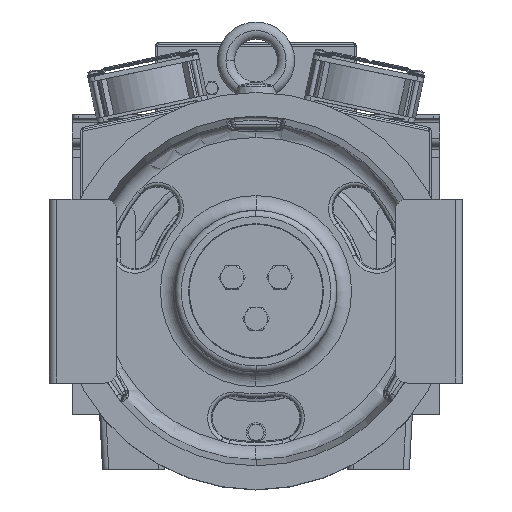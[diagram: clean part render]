
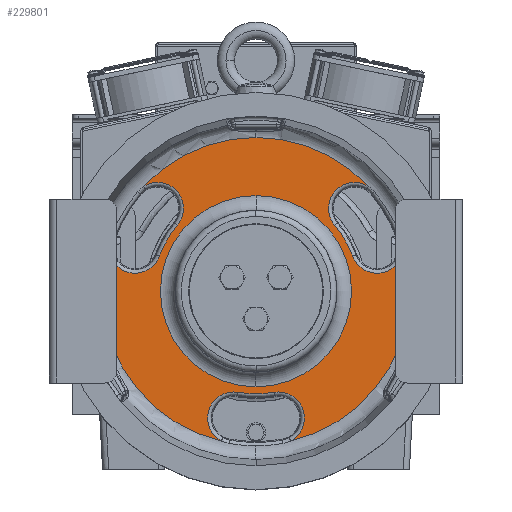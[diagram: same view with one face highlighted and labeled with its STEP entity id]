
A CAD part, top view. The second image highlights one B-rep face of the part: STEP entity #229801.
In plain terms, the highlighted planar face has unit normal (0, 0, 1) as drawn and (0, 0, -1) by its records, which use the part's own axes.
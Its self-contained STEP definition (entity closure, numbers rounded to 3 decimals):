
#224894=CARTESIAN_POINT('',(-18.233,-103.405,-10.));
#224895=DIRECTION('',(0.,0.,-1.));
#224896=DIRECTION('',(-0.469,-0.883,0.));
#224897=AXIS2_PLACEMENT_3D('',#224894,#224895,#224896);
#224899=CARTESIAN_POINT('',(0.,0.,-10.));
#224900=DIRECTION('',(0.,0.,1.));
#224901=DIRECTION('',(-0.174,-0.985,0.));
#224902=AXIS2_PLACEMENT_3D('',#224899,#224900,#224901);
#224904=CARTESIAN_POINT('',(18.233,-103.405,-10.));
#224905=DIRECTION('',(0.,0.,-1.));
#224906=DIRECTION('',(-0.174,0.985,0.));
#224907=AXIS2_PLACEMENT_3D('',#224904,#224905,#224906);
#224909=CARTESIAN_POINT('',(18.233,-103.405,-10.));
#224910=DIRECTION('',(0.,0.,-1.));
#224911=DIRECTION('',(-0.165,0.986,0.));
#224912=AXIS2_PLACEMENT_3D('',#224909,#224910,#224911);
#224914=CARTESIAN_POINT('',(0.,0.,-10.));
#224915=DIRECTION('',(0.,0.,1.));
#224916=DIRECTION('',(0.225,-0.974,0.));
#224917=AXIS2_PLACEMENT_3D('',#224914,#224915,#224916);
#224919=CARTESIAN_POINT('',(98.668,35.912,-10.));
#224920=DIRECTION('',(0.,0.,-1.));
#224921=DIRECTION('',(0.999,0.036,0.));
#224922=AXIS2_PLACEMENT_3D('',#224919,#224920,#224921);
#224924=CARTESIAN_POINT('',(0.,0.,-10.));
#224925=DIRECTION('',(0.,0.,1.));
#224926=DIRECTION('',(0.94,0.342,0.));
#224927=AXIS2_PLACEMENT_3D('',#224924,#224925,#224926);
#224929=CARTESIAN_POINT('',(80.435,67.493,-10.));
#224930=DIRECTION('',(0.,0.,-1.));
#224931=DIRECTION('',(-0.766,-0.643,0.));
#224932=AXIS2_PLACEMENT_3D('',#224929,#224930,#224931);
#224934=CARTESIAN_POINT('',(80.435,67.493,-10.));
#224935=DIRECTION('',(0.,0.,-1.));
#224936=DIRECTION('',(-0.771,-0.636,0.));
#224937=AXIS2_PLACEMENT_3D('',#224934,#224935,#224936);
#224939=CARTESIAN_POINT('',(0.,0.,-10.));
#224940=DIRECTION('',(0.,0.,1.));
#224941=DIRECTION('',(0.731,0.682,0.));
#224942=AXIS2_PLACEMENT_3D('',#224939,#224940,#224941);
#224944=CARTESIAN_POINT('',(0.,0.,-10.));
#224945=DIRECTION('',(0.,0.,1.));
#224946=DIRECTION('',(0.,1.,0.));
#224947=AXIS2_PLACEMENT_3D('',#224944,#224945,#224946);
#224949=CARTESIAN_POINT('',(-80.435,67.493,-10.));
#224950=DIRECTION('',(0.,0.,-1.));
#224951=DIRECTION('',(-0.531,0.848,0.));
#224952=AXIS2_PLACEMENT_3D('',#224949,#224950,#224951);
#224954=CARTESIAN_POINT('',(0.,0.,-10.));
#224955=DIRECTION('',(0.,0.,1.));
#224956=DIRECTION('',(-0.766,0.643,0.));
#224957=AXIS2_PLACEMENT_3D('',#224954,#224955,#224956);
#224959=CARTESIAN_POINT('',(-98.668,35.912,-10.));
#224960=DIRECTION('',(0.,0.,-1.));
#224961=DIRECTION('',(0.94,-0.342,0.));
#224962=AXIS2_PLACEMENT_3D('',#224959,#224960,#224961);
#224964=CARTESIAN_POINT('',(-98.668,35.912,-10.));
#224965=DIRECTION('',(0.,0.,-1.));
#224966=DIRECTION('',(0.937,-0.35,0.));
#224967=AXIS2_PLACEMENT_3D('',#224964,#224965,#224966);
#224969=CARTESIAN_POINT('',(0.,0.,-10.));
#224970=DIRECTION('',(0.,0.,1.));
#224971=DIRECTION('',(-0.956,0.292,0.));
#224972=AXIS2_PLACEMENT_3D('',#224969,#224970,#224971);
#224974=CARTESIAN_POINT('',(0.,0.,-10.));
#224975=DIRECTION('',(0.,0.,-1.));
#224976=DIRECTION('',(0.,-1.,0.));
#224977=AXIS2_PLACEMENT_3D('',#224974,#224975,#224976);
#224979=CARTESIAN_POINT('',(0.,0.,-10.));
#224980=DIRECTION('',(0.,0.,-1.));
#224981=DIRECTION('',(0.,1.,0.));
#224982=AXIS2_PLACEMENT_3D('',#224979,#224980,#224981);
#228984=CARTESIAN_POINT('',(0.,-77.987,-10.));
#228985=CARTESIAN_POINT('',(0.,77.987,-10.));
#228986=VERTEX_POINT('',#228984);
#228987=VERTEX_POINT('',#228985);
#228988=CARTESIAN_POINT('',(-28.194,-122.178,-10.));
#228989=CARTESIAN_POINT('',(-14.543,-82.475,-10.));
#228990=VERTEX_POINT('',#228988);
#228991=VERTEX_POINT('',#228989);
#228992=CARTESIAN_POINT('',(14.543,-82.475,-10.));
#228993=VERTEX_POINT('',#228992);
#228994=CARTESIAN_POINT('',(14.721,-82.445,-10.));
#228995=CARTESIAN_POINT('',(28.194,-122.178,-10.));
#228996=VERTEX_POINT('',#228994);
#228997=VERTEX_POINT('',#228995);
#228998=CARTESIAN_POINT('',(119.906,36.672,-10.));
#228999=VERTEX_POINT('',#228998);
#229000=CARTESIAN_POINT('',(78.697,28.643,-10.));
#229001=VERTEX_POINT('',#229000);
#229002=CARTESIAN_POINT('',(64.154,53.832,-10.));
#229003=VERTEX_POINT('',#229002);
#229004=CARTESIAN_POINT('',(64.039,53.971,-10.));
#229005=CARTESIAN_POINT('',(91.712,85.506,-10.));
#229006=VERTEX_POINT('',#229004);
#229007=VERTEX_POINT('',#229005);
#229008=CARTESIAN_POINT('',(0.,125.389,-10.));
#229009=VERTEX_POINT('',#229008);
#229010=CARTESIAN_POINT('',(-91.712,85.506,-10.));
#229011=VERTEX_POINT('',#229010);
#229012=CARTESIAN_POINT('',(-64.154,53.832,-10.));
#229013=VERTEX_POINT('',#229012);
#229014=CARTESIAN_POINT('',(-78.697,28.643,-10.));
#229015=VERTEX_POINT('',#229014);
#229016=CARTESIAN_POINT('',(-78.76,28.473,-10.));
#229017=CARTESIAN_POINT('',(-119.906,36.672,-10.));
#229018=VERTEX_POINT('',#229016);
#229019=VERTEX_POINT('',#229017);
#229757=CARTESIAN_POINT('',(0.,0.,-10.));
#229758=DIRECTION('',(0.,0.,1.));
#229759=DIRECTION('',(0.,1.,0.));
#229760=AXIS2_PLACEMENT_3D('',#229757,#229758,#229759);
#229761=PLANE('',#229760);
#229763=ORIENTED_EDGE('',*,*,#229762,.T.);
#229765=ORIENTED_EDGE('',*,*,#229764,.T.);
#229767=ORIENTED_EDGE('',*,*,#229766,.T.);
#229769=ORIENTED_EDGE('',*,*,#229768,.T.);
#229771=ORIENTED_EDGE('',*,*,#229770,.T.);
#229773=ORIENTED_EDGE('',*,*,#229772,.T.);
#229775=ORIENTED_EDGE('',*,*,#229774,.T.);
#229777=ORIENTED_EDGE('',*,*,#229776,.T.);
#229779=ORIENTED_EDGE('',*,*,#229778,.T.);
#229781=ORIENTED_EDGE('',*,*,#229780,.T.);
#229783=ORIENTED_EDGE('',*,*,#229782,.T.);
#229785=ORIENTED_EDGE('',*,*,#229784,.T.);
#229787=ORIENTED_EDGE('',*,*,#229786,.T.);
#229789=ORIENTED_EDGE('',*,*,#229788,.T.);
#229791=ORIENTED_EDGE('',*,*,#229790,.T.);
#229793=ORIENTED_EDGE('',*,*,#229792,.T.);
#229794=EDGE_LOOP('',(#229763,#229765,#229767,#229769,#229771,#229773,#229775,
#229777,#229779,#229781,#229783,#229785,#229787,#229789,#229791,#229793));
#229795=FACE_OUTER_BOUND('',#229794,.F.);
#229796=ORIENTED_EDGE('',*,*,#229746,.T.);
#229798=ORIENTED_EDGE('',*,*,#229797,.T.);
#229799=EDGE_LOOP('',(#229796,#229798));
#229800=FACE_BOUND('',#229799,.F.);
#229801=ADVANCED_FACE('',(#229795,#229800),#229761,.F.);
#224898=CIRCLE('',#224897,21.252);
#224903=CIRCLE('',#224902,83.748);
#224908=CIRCLE('',#224907,21.252);
#224913=CIRCLE('',#224912,21.252);
#224918=CIRCLE('',#224917,125.389);
#224923=CIRCLE('',#224922,21.252);
#224928=CIRCLE('',#224927,83.748);
#224933=CIRCLE('',#224932,21.252);
#224938=CIRCLE('',#224937,21.252);
#224943=CIRCLE('',#224942,125.389);
#224948=CIRCLE('',#224947,125.389);
#224953=CIRCLE('',#224952,21.252);
#224958=CIRCLE('',#224957,83.748);
#224963=CIRCLE('',#224962,21.252);
#224968=CIRCLE('',#224967,21.252);
#224973=CIRCLE('',#224972,125.389);
#224978=CIRCLE('',#224977,77.987);
#224983=CIRCLE('',#224982,77.987);
#229746=EDGE_CURVE('',#228986,#228987,#224978,.T.);
#229762=EDGE_CURVE('',#228990,#228991,#224898,.T.);
#229764=EDGE_CURVE('',#228991,#228993,#224903,.T.);
#229766=EDGE_CURVE('',#228993,#228996,#224908,.T.);
#229768=EDGE_CURVE('',#228996,#228997,#224913,.T.);
#229770=EDGE_CURVE('',#228997,#228999,#224918,.T.);
#229772=EDGE_CURVE('',#228999,#229001,#224923,.T.);
#229774=EDGE_CURVE('',#229001,#229003,#224928,.T.);
#229776=EDGE_CURVE('',#229003,#229006,#224933,.T.);
#229778=EDGE_CURVE('',#229006,#229007,#224938,.T.);
#229780=EDGE_CURVE('',#229007,#229009,#224943,.T.);
#229782=EDGE_CURVE('',#229009,#229011,#224948,.T.);
#229784=EDGE_CURVE('',#229011,#229013,#224953,.T.);
#229786=EDGE_CURVE('',#229013,#229015,#224958,.T.);
#229788=EDGE_CURVE('',#229015,#229018,#224963,.T.);
#229790=EDGE_CURVE('',#229018,#229019,#224968,.T.);
#229792=EDGE_CURVE('',#229019,#228990,#224973,.T.);
#229797=EDGE_CURVE('',#228987,#228986,#224983,.T.);
